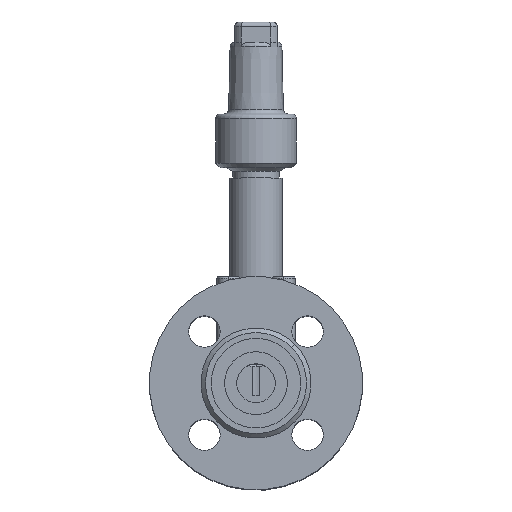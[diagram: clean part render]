
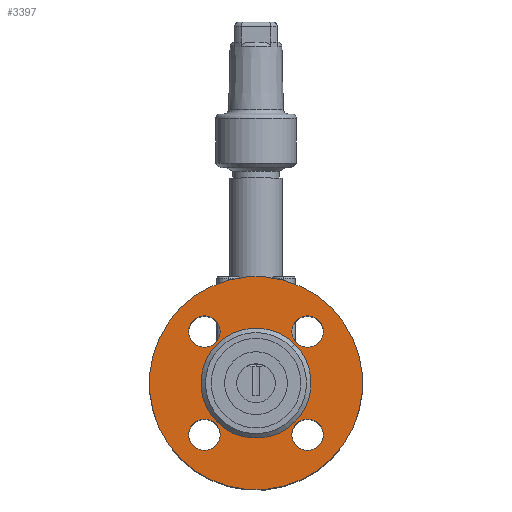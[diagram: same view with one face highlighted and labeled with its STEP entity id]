
A CAD part, top view. The second image highlights one B-rep face of the part: STEP entity #3397.
In plain terms, the highlighted planar face has unit normal (0, 0, 1) as drawn and (0, -1, 0) by its records, which use the part's own axes.
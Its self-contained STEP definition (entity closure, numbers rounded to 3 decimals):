
#316 = ORIENTED_EDGE ( 'NONE', *, *, #7815, .T. ) ;
#1276 = EDGE_CURVE ( 'NONE', #5318, #5471, #21803, .T. ) ;
#1969 = ORIENTED_EDGE ( 'NONE', *, *, #1276, .T. ) ;
#18405 = EDGE_CURVE ( 'NONE', #4088, #10341, #15503, .T. ) ;
#18422 = VERTEX_POINT ( 'NONE', #15513 ) ;
#18495 = VERTEX_POINT ( 'NONE', #15555 ) ;
#18712 = EDGE_CURVE ( 'NONE', #18495, #19608, #15726, .T. ) ;
#19061 = CIRCLE ( 'NONE', #19062, 47.5 ) ;
#19062 = AXIS2_PLACEMENT_3D ( 'NONE', #19063, #19064, #19067 ) ;
#19063 = CARTESIAN_POINT ( 'NONE',  ( 0., 2., 0. ) ) ;
#19064 = DIRECTION ( 'NONE',  ( 0., 1., 0. ) ) ;
#19067 = DIRECTION ( 'NONE',  ( -1., 0., 0. ) ) ;
#19146 = CARTESIAN_POINT ( 'NONE',  ( 24.5, 2., 0. ) ) ;
#19223 = CARTESIAN_POINT ( 'NONE',  ( -7., 2., 32.5 ) ) ;
#19236 = CIRCLE ( 'NONE', #19240, 24.5 ) ;
#19240 = AXIS2_PLACEMENT_3D ( 'NONE', #19241, #19242, #19243 ) ;
#19241 = CARTESIAN_POINT ( 'NONE',  ( 0., 2., 0. ) ) ;
#19242 = DIRECTION ( 'NONE',  ( 0., 1., 0. ) ) ;
#19243 = DIRECTION ( 'NONE',  ( -1., 0., 0. ) ) ;
#2945 = EDGE_LOOP ( 'NONE', ( #1969, #316 ) ) ;
#3015 = VERTEX_POINT ( 'NONE', #3170 ) ;
#19475 = CARTESIAN_POINT ( 'NONE',  ( 25.5, 2., 0. ) ) ;
#19536 = EDGE_CURVE ( 'NONE', #8287, #3015, #19061, .T. ) ;
#3170 = CARTESIAN_POINT ( 'NONE',  ( 47.5, 2., 0. ) ) ;
#19608 = VERTEX_POINT ( 'NONE', #19146 ) ;
#3397 = ADVANCED_FACE ( 'NONE', ( #4972, #4973, #4974, #4975, #4978, #4979 ), #4980, .F. ) ;
#20018 = CIRCLE ( 'NONE', #20019, 7. ) ;
#20019 = AXIS2_PLACEMENT_3D ( 'NONE', #20020, #20021, #20025 ) ;
#20020 = CARTESIAN_POINT ( 'NONE',  ( -32.5, 2., 0. ) ) ;
#20021 = DIRECTION ( 'NONE',  ( 0., 1., 0. ) ) ;
#20025 = DIRECTION ( 'NONE',  ( -1., 0., 0. ) ) ;
#4088 = VERTEX_POINT ( 'NONE', #5423 ) ;
#20781 = ORIENTED_EDGE ( 'NONE', *, *, #10600, .T. ) ;
#21003 = CARTESIAN_POINT ( 'NONE',  ( 7., 2., 32.5 ) ) ;
#21265 = CIRCLE ( 'NONE', #21266, 7. ) ;
#21266 = AXIS2_PLACEMENT_3D ( 'NONE', #21284, #21285, #21286 ) ;
#21284 = CARTESIAN_POINT ( 'NONE',  ( 0., 2., 32.5 ) ) ;
#21285 = DIRECTION ( 'NONE',  ( 0., 1., 0. ) ) ;
#21286 = DIRECTION ( 'NONE',  ( -1., 0., 0. ) ) ;
#4972 = FACE_BOUND ( 'NONE', #2945, .T. ) ;
#4973 = FACE_BOUND ( 'NONE', #21754, .T. ) ;
#4974 = FACE_BOUND ( 'NONE', #9839, .T. ) ;
#4975 = FACE_BOUND ( 'NONE', #8177, .T. ) ;
#4978 = FACE_OUTER_BOUND ( 'NONE', #6506, .T. ) ;
#4979 = FACE_BOUND ( 'NONE', #14740, .T. ) ;
#4980 = PLANE ( 'NONE',  #4981 ) ;
#4981 = AXIS2_PLACEMENT_3D ( 'NONE', #4982, #4983, #4984 ) ;
#4982 = CARTESIAN_POINT ( 'NONE',  ( 24.5, 2., 0. ) ) ;
#4983 = DIRECTION ( 'NONE',  ( 0., 1., 0. ) ) ;
#4984 = DIRECTION ( 'NONE',  ( -1., 0., 0. ) ) ;
#5318 = VERTEX_POINT ( 'NONE', #7884 ) ;
#21754 = EDGE_LOOP ( 'NONE', ( #20781, #10081 ) ) ;
#5423 = CARTESIAN_POINT ( 'NONE',  ( 39.5, 2., 0. ) ) ;
#21803 = CIRCLE ( 'NONE', #21804, 7. ) ;
#21804 = AXIS2_PLACEMENT_3D ( 'NONE', #21805, #21806, #21807 ) ;
#21805 = CARTESIAN_POINT ( 'NONE',  ( 0., 2., -32.5 ) ) ;
#21806 = DIRECTION ( 'NONE',  ( 0., 1., 0. ) ) ;
#21807 = DIRECTION ( 'NONE',  ( -1., 0., 0. ) ) ;
#5450 = EDGE_CURVE ( 'NONE', #3015, #8287, #8348, .T. ) ;
#5471 = VERTEX_POINT ( 'NONE', #8389 ) ;
#6506 = EDGE_LOOP ( 'NONE', ( #15471, #14984 ) ) ;
#6750 = ORIENTED_EDGE ( 'NONE', *, *, #18405, .T. ) ;
#7267 = EDGE_CURVE ( 'NONE', #10341, #4088, #12416, .T. ) ;
#7647 = ORIENTED_EDGE ( 'NONE', *, *, #7267, .T. ) ;
#7815 = EDGE_CURVE ( 'NONE', #5471, #5318, #14055, .T. ) ;
#7884 = CARTESIAN_POINT ( 'NONE',  ( -7., 2., -32.5 ) ) ;
#8177 = EDGE_LOOP ( 'NONE', ( #7647, #6750 ) ) ;
#8287 = VERTEX_POINT ( 'NONE', #14600 ) ;
#8348 = CIRCLE ( 'NONE', #8349, 47.5 ) ;
#8349 = AXIS2_PLACEMENT_3D ( 'NONE', #8350, #8351, #8352 ) ;
#8350 = CARTESIAN_POINT ( 'NONE',  ( 0., 2., 0. ) ) ;
#8351 = DIRECTION ( 'NONE',  ( 0., 1., 0. ) ) ;
#8352 = DIRECTION ( 'NONE',  ( -1., 0., 0. ) ) ;
#8389 = CARTESIAN_POINT ( 'NONE',  ( 7., 2., -32.5 ) ) ;
#8424 = ORIENTED_EDGE ( 'NONE', *, *, #11352, .T. ) ;
#8797 = EDGE_CURVE ( 'NONE', #9189, #18422, #15427, .T. ) ;
#8942 = EDGE_CURVE ( 'NONE', #10174, #11168, #15518, .T. ) ;
#9189 = VERTEX_POINT ( 'NONE', #15715 ) ;
#9318 = ORIENTED_EDGE ( 'NONE', *, *, #8942, .T. ) ;
#9839 = EDGE_LOOP ( 'NONE', ( #9318, #8424 ) ) ;
#10081 = ORIENTED_EDGE ( 'NONE', *, *, #8797, .T. ) ;
#10174 = VERTEX_POINT ( 'NONE', #19223 ) ;
#10246 = EDGE_CURVE ( 'NONE', #19608, #18495, #19236, .T. ) ;
#10341 = VERTEX_POINT ( 'NONE', #19475 ) ;
#10600 = EDGE_CURVE ( 'NONE', #18422, #9189, #20018, .T. ) ;
#11168 = VERTEX_POINT ( 'NONE', #21003 ) ;
#11352 = EDGE_CURVE ( 'NONE', #11168, #10174, #21265, .T. ) ;
#12416 = CIRCLE ( 'NONE', #12417, 7. ) ;
#12417 = AXIS2_PLACEMENT_3D ( 'NONE', #12418, #12419, #12421 ) ;
#12418 = CARTESIAN_POINT ( 'NONE',  ( 32.5, 2., 0. ) ) ;
#12419 = DIRECTION ( 'NONE',  ( 0., 1., 0. ) ) ;
#12421 = DIRECTION ( 'NONE',  ( -1., 0., 0. ) ) ;
#13705 = ORIENTED_EDGE ( 'NONE', *, *, #10246, .T. ) ;
#14055 = CIRCLE ( 'NONE', #14056, 7. ) ;
#14056 = AXIS2_PLACEMENT_3D ( 'NONE', #14057, #14058, #14059 ) ;
#14057 = CARTESIAN_POINT ( 'NONE',  ( 0., 2., -32.5 ) ) ;
#14058 = DIRECTION ( 'NONE',  ( 0., 1., 0. ) ) ;
#14059 = DIRECTION ( 'NONE',  ( -1., 0., 0. ) ) ;
#14229 = ORIENTED_EDGE ( 'NONE', *, *, #18712, .T. ) ;
#14600 = CARTESIAN_POINT ( 'NONE',  ( -47.5, 2., 0. ) ) ;
#14740 = EDGE_LOOP ( 'NONE', ( #14229, #13705 ) ) ;
#14984 = ORIENTED_EDGE ( 'NONE', *, *, #5450, .F. ) ;
#15427 = CIRCLE ( 'NONE', #15428, 7. ) ;
#15428 = AXIS2_PLACEMENT_3D ( 'NONE', #15436, #15437, #15438 ) ;
#15436 = CARTESIAN_POINT ( 'NONE',  ( -32.5, 2., 0. ) ) ;
#15437 = DIRECTION ( 'NONE',  ( 0., 1., 0. ) ) ;
#15438 = DIRECTION ( 'NONE',  ( -1., 0., 0. ) ) ;
#15471 = ORIENTED_EDGE ( 'NONE', *, *, #19536, .F. ) ;
#15503 = CIRCLE ( 'NONE', #15504, 7. ) ;
#15504 = AXIS2_PLACEMENT_3D ( 'NONE', #15505, #15506, #15507 ) ;
#15505 = CARTESIAN_POINT ( 'NONE',  ( 32.5, 2., 0. ) ) ;
#15506 = DIRECTION ( 'NONE',  ( 0., 1., 0. ) ) ;
#15507 = DIRECTION ( 'NONE',  ( -1., 0., 0. ) ) ;
#15513 = CARTESIAN_POINT ( 'NONE',  ( -39.5, 2., 0. ) ) ;
#15518 = CIRCLE ( 'NONE', #15519, 7. ) ;
#15519 = AXIS2_PLACEMENT_3D ( 'NONE', #15520, #15521, #15522 ) ;
#15520 = CARTESIAN_POINT ( 'NONE',  ( 0., 2., 32.5 ) ) ;
#15521 = DIRECTION ( 'NONE',  ( 0., 1., 0. ) ) ;
#15522 = DIRECTION ( 'NONE',  ( -1., 0., 0. ) ) ;
#15555 = CARTESIAN_POINT ( 'NONE',  ( -24.5, 2., 0. ) ) ;
#15715 = CARTESIAN_POINT ( 'NONE',  ( -25.5, 2., 0. ) ) ;
#15726 = CIRCLE ( 'NONE', #15728, 24.5 ) ;
#15728 = AXIS2_PLACEMENT_3D ( 'NONE', #15729, #15730, #15731 ) ;
#15729 = CARTESIAN_POINT ( 'NONE',  ( 0., 2., 0. ) ) ;
#15730 = DIRECTION ( 'NONE',  ( 0., 1., 0. ) ) ;
#15731 = DIRECTION ( 'NONE',  ( -1., 0., 0. ) ) ;
